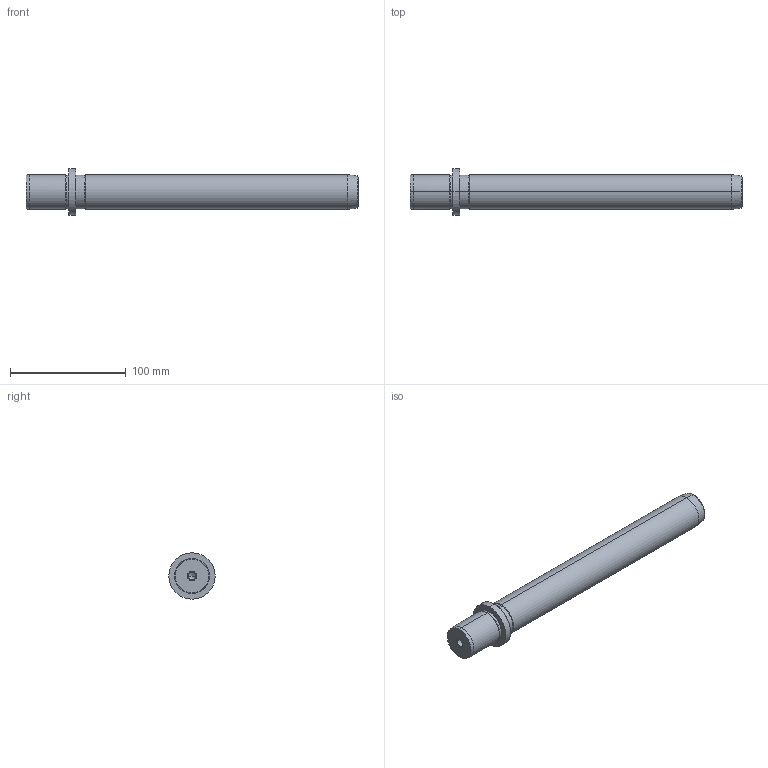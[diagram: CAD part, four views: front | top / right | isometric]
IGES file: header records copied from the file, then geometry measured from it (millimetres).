
Start section: START RECORD GO HERE.
Global section: file name: 718-30x250.igs; native system: DASSAULT SYSTEMES CATIA V5 R20 - www.3ds.com; preprocessor: CATIA Version 5 Release 20 ; author: Utente; organization: NB04-ASUS; date: 20210102.141251; units: millimetre
Bounding box: 287 x 40 x 40 mm (x, y, z)
Surface area: 30630.1 mm2 (no closed solid volume)
Topology: 0 solids, 0 shells, 36 faces, 196 edges, 192 vertices
Faces by surface type: revolution 32, plane 4
